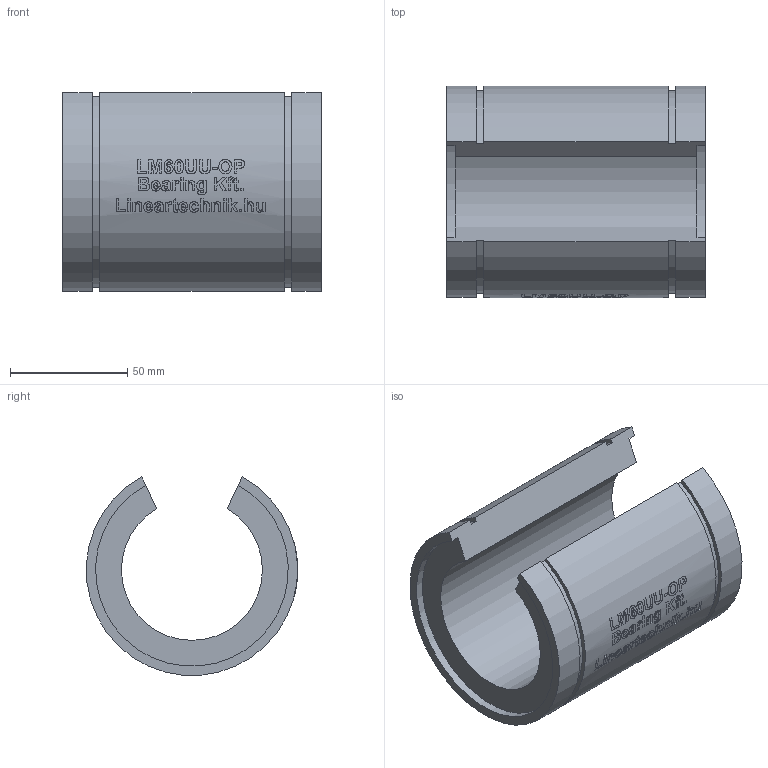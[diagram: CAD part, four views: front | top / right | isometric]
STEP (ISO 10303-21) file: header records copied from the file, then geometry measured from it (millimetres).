
FILE_DESCRIPTION(/* description */ (''),/* implementation_level */ '2;1');
FILE_NAME(/* name */ 'LM60UU-OP',/* time_stamp */ '2019-07-10T16:11:50+02:00',/* author */ ('VĂ©gh MĂˇtĂ©'),/* organization */ ('Bearing Kft'),/* preprocessor_version */ 'ST-DEVELOPER v16.7',/* originating_system */ 'DEX',/* authorisation */ $);
FILE_SCHEMA (('AUTOMOTIVE_DESIGN {1 0 10303 214 3 1 1}'));
Length unit declared in the file: millimetre
Products named in the file (1): LM60UU-OP
Bounding box: 110 x 89.94 x 84.45 mm (x, y, z)
Volume: 309115 mm3; surface area: 54618.3 mm2
Topology: 1 solids, 1 shells, 320 faces, 802 edges, 535 vertices
Faces by surface type: plane 165, bspline 96, cylinder 59
Entity records: 20722 total; most frequent: CARTESIAN_POINT 13545, ORIENTED_EDGE 1592, DIRECTION 1205, EDGE_CURVE 796, VERTEX_POINT 535, LINE 445, VECTOR 445, AXIS2_PLACEMENT_3D 380
